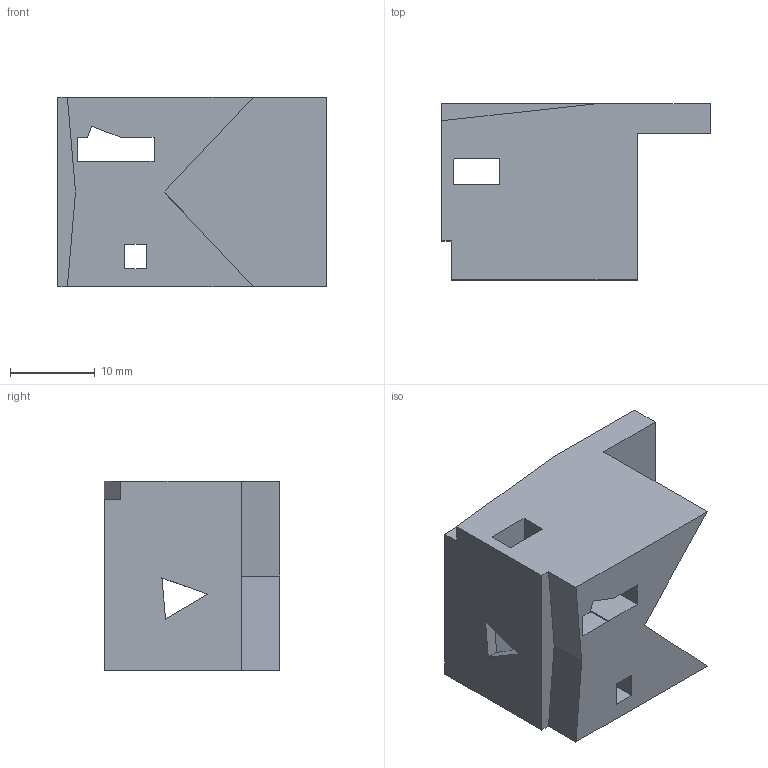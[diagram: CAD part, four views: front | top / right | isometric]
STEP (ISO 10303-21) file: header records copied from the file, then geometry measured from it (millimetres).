
FILE_DESCRIPTION(('Open CASCADE Model'),'2;1');
FILE_NAME('Open CASCADE Shape Model','2021-05-10T17:59:03',('Author'),( 'Open CASCADE'),'Open CASCADE STEP processor 7.4','Open CASCADE 7.4' ,'Unknown');
FILE_SCHEMA(('AUTOMOTIVE_DESIGN { 1 0 10303 214 1 1 1 1 }'));
Length unit declared in the file: millimetre
Products named in the file (1): Open CASCADE STEP translator 7.4 754
Bounding box: 31.77 x 20.83 x 22.39 mm (x, y, z)
Volume: 7984.7 mm3; surface area: 4581.3 mm2
Topology: 1 solids, 1 shells, 45 faces, 141 edges, 94 vertices
Faces by surface type: plane 45
Entity records: 3294 total; most frequent: CARTESIAN_POINT 671, DIRECTION 407, LINE 315, VECTOR 315, ORIENTED_EDGE 282, PCURVE 282, DEFINITIONAL_REPRESENTATION 282, EDGE_CURVE 141
